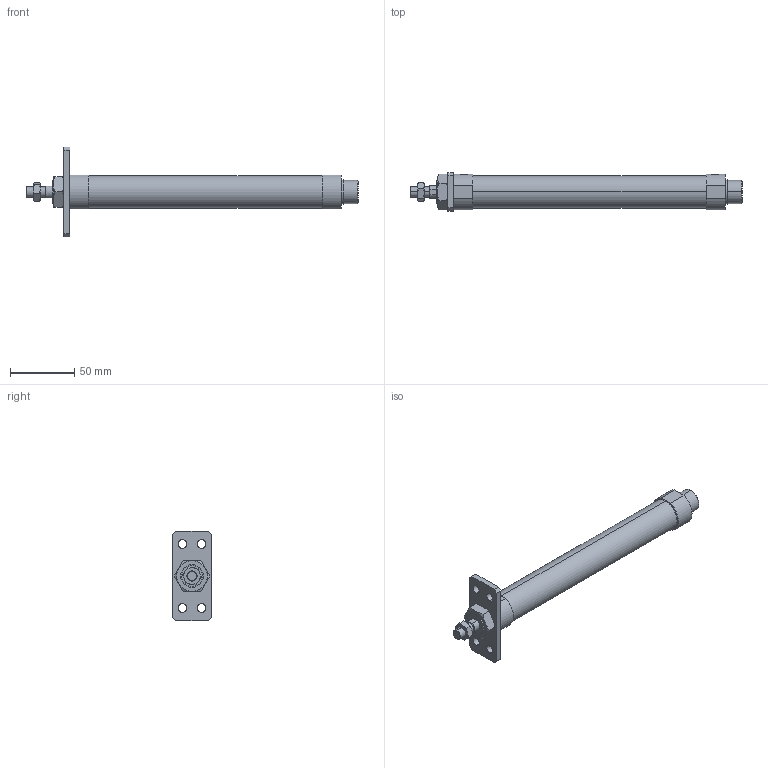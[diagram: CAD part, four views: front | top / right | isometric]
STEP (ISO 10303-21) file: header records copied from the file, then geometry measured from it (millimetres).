
FILE_DESCRIPTION (( 'STEP AP203' ), '1' );
FILE_NAME ('J#2-20-150-A.STEP', '2016-03-08T07:05:36', ( '' ), ( '' ), 'SwSTEP 2.0', 'SolidWorks 2014', '' );
FILE_SCHEMA (( 'CONFIG_CONTROL_DESIGN' ));
Length unit declared in the file: millimetre
Products named in the file (5): J#2-20-150; J#2-20-A; J#2-20-150-A
Assembly tree (4 placements, depth 2):
  J#2-20-150-A
    J#2-20-150
    (unnamed)
    (unnamed)
    J#2-20-A
Bounding box: 259 x 30 x 70 mm (x, y, z)
Volume: 124032 mm3; surface area: 28067 mm2
Topology: 4 solids, 4 shells, 112 faces, 252 edges, 158 vertices
Faces by surface type: plane 46, cylinder 36, torus 24, cone 6
Entity records: 4013 total; most frequent: CARTESIAN_POINT 985, DIRECTION 536, ORIENTED_EDGE 504, EDGE_CURVE 252, AXIS2_PLACEMENT_3D 221, VERTEX_POINT 158, EDGE_LOOP 136, ADVANCED_FACE 112
